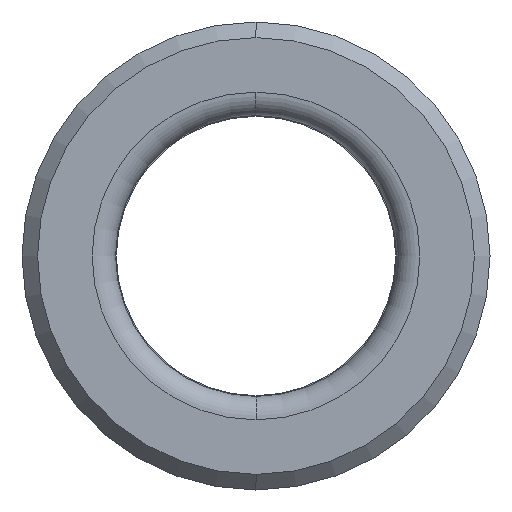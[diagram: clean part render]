
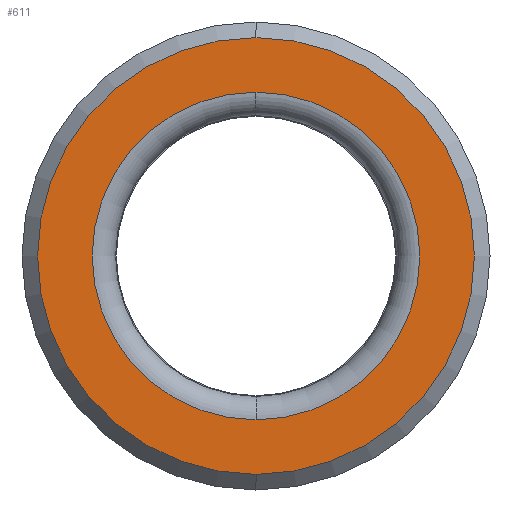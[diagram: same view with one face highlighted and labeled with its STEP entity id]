
A CAD part, left-side view. The second image highlights one B-rep face of the part: STEP entity #611.
In plain terms, the highlighted planar face has unit normal (-1, 0, 0).
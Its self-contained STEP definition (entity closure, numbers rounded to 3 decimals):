
#2 = DIRECTION ( 'NONE',  ( 0., 0., -1. ) ) ;
#5 = CARTESIAN_POINT ( 'NONE',  ( 0.729, 0., -10.5 ) ) ;
#10 = PLANE ( 'NONE',  #175 ) ;
#34 = DIRECTION ( 'NONE',  ( 1., 0., 0. ) ) ;
#48 = VERTEX_POINT ( 'NONE', #5 ) ;
#50 = AXIS2_PLACEMENT_3D ( 'NONE', #436, #34, #2 ) ;
#61 = EDGE_LOOP ( 'NONE', ( #773, #113 ) ) ;
#84 = CARTESIAN_POINT ( 'NONE',  ( 0.729, 0., 14. ) ) ;
#100 = FACE_BOUND ( 'NONE', #61, .T. ) ;
#102 = AXIS2_PLACEMENT_3D ( 'NONE', #615, #691, #747 ) ;
#104 = AXIS2_PLACEMENT_3D ( 'NONE', #353, #408, #788 ) ;
#108 = CIRCLE ( 'NONE', #104, 14. ) ;
#113 = ORIENTED_EDGE ( 'NONE', *, *, #125, .T. ) ;
#125 = EDGE_CURVE ( 'NONE', #804, #48, #419, .T. ) ;
#135 = DIRECTION ( 'NONE',  ( 1., 0., 0. ) ) ;
#175 = AXIS2_PLACEMENT_3D ( 'NONE', #198, #135, #339 ) ;
#198 = CARTESIAN_POINT ( 'NONE',  ( 0.729, 15., 0. ) ) ;
#202 = CARTESIAN_POINT ( 'NONE',  ( 0.729, 0., 10.5 ) ) ;
#213 = VERTEX_POINT ( 'NONE', #84 ) ;
#236 = EDGE_LOOP ( 'NONE', ( #760, #620 ) ) ;
#339 = DIRECTION ( 'NONE',  ( 0., 0., -1. ) ) ;
#353 = CARTESIAN_POINT ( 'NONE',  ( 0.729, 0., 0. ) ) ;
#408 = DIRECTION ( 'NONE',  ( -1., 0., 0. ) ) ;
#419 = CIRCLE ( 'NONE', #50, 10.5 ) ;
#436 = CARTESIAN_POINT ( 'NONE',  ( 0.729, 0., 0. ) ) ;
#451 = EDGE_CURVE ( 'NONE', #48, #804, #817, .T. ) ;
#495 = AXIS2_PLACEMENT_3D ( 'NONE', #685, #677, #638 ) ;
#519 = VERTEX_POINT ( 'NONE', #541 ) ;
#541 = CARTESIAN_POINT ( 'NONE',  ( 0.729, 0., -14. ) ) ;
#542 = EDGE_CURVE ( 'NONE', #519, #213, #668, .T. ) ;
#583 = FACE_OUTER_BOUND ( 'NONE', #236, .T. ) ;
#611 = ADVANCED_FACE ( 'NONE', ( #100, #583 ), #10, .F. ) ;
#615 = CARTESIAN_POINT ( 'NONE',  ( 0.729, 0., 0. ) ) ;
#620 = ORIENTED_EDGE ( 'NONE', *, *, #799, .T. ) ;
#638 = DIRECTION ( 'NONE',  ( 0., 0., -1. ) ) ;
#668 = CIRCLE ( 'NONE', #102, 14. ) ;
#677 = DIRECTION ( 'NONE',  ( 1., 0., 0. ) ) ;
#685 = CARTESIAN_POINT ( 'NONE',  ( 0.729, 0., 0. ) ) ;
#691 = DIRECTION ( 'NONE',  ( -1., 0., 0. ) ) ;
#747 = DIRECTION ( 'NONE',  ( 0., 0., -1. ) ) ;
#760 = ORIENTED_EDGE ( 'NONE', *, *, #542, .T. ) ;
#773 = ORIENTED_EDGE ( 'NONE', *, *, #451, .T. ) ;
#788 = DIRECTION ( 'NONE',  ( 0., 0., -1. ) ) ;
#799 = EDGE_CURVE ( 'NONE', #213, #519, #108, .T. ) ;
#804 = VERTEX_POINT ( 'NONE', #202 ) ;
#817 = CIRCLE ( 'NONE', #495, 10.5 ) ;
